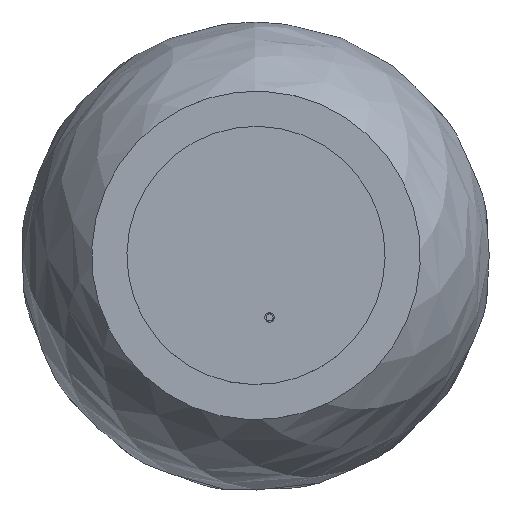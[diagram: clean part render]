
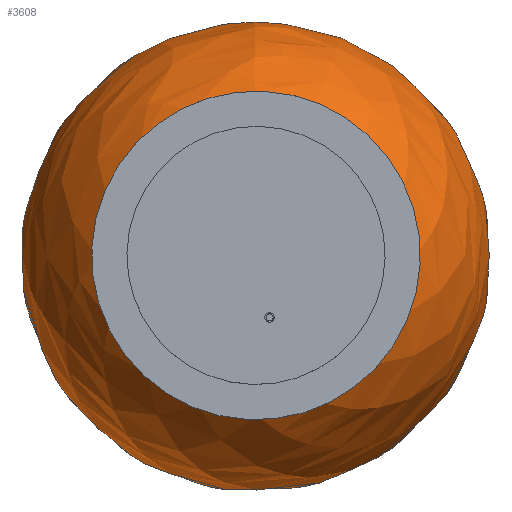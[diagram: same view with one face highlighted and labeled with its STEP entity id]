
A CAD part, top view. The second image highlights one B-rep face of the part: STEP entity #3608.
In plain terms, the highlighted free-form (B-spline) face has degree [2, 2] with [5, 9] control points.
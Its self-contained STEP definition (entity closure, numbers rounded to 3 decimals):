
#23=(
BOUNDED_SURFACE()
B_SPLINE_SURFACE(2,2,((#5984,#5985,#5986,#5987,#5988,#5989,#5990,#5991,
#5992),(#5993,#5994,#5995,#5996,#5997,#5998,#5999,#6000,#6001),(#6002,#6003,
#6004,#6005,#6006,#6007,#6008,#6009,#6010),(#6011,#6012,#6013,#6014,#6015,
#6016,#6017,#6018,#6019),(#6020,#6021,#6022,#6023,#6024,#6025,#6026,#6027,
#6028)),.UNSPECIFIED.,.F.,.T.,.F.)
B_SPLINE_SURFACE_WITH_KNOTS((3,2,3),(3,2,2,2,3),(-1.156,0.208,
1.572),(-3.142,-1.571,0.,1.571,
3.142),.UNSPECIFIED.)
GEOMETRIC_REPRESENTATION_ITEM()
RATIONAL_B_SPLINE_SURFACE(((1.,0.707,1.,0.707,1.,
0.707,1.,0.707,1.),(0.776,0.549,
0.776,0.549,0.776,0.549,
0.776,0.549,0.776),(1.,0.707,
1.,0.707,1.,0.707,1.,0.707,1.),(0.776,
0.549,0.776,0.549,0.776,
0.549,0.776,0.549,0.776),
(1.,0.707,1.,0.707,1.,0.707,1.,0.707,
1.)))
REPRESENTATION_ITEM('')
SURFACE()
);
#885=FACE_OUTER_BOUND('',#1129,.T.);
#1129=EDGE_LOOP('',(#2818,#2819,#2820));
#1336=CIRCLE('',#3974,40.391);
#1338=CIRCLE('',#3976,100.);
#1609=VERTEX_POINT('',#5981);
#1610=VERTEX_POINT('',#6029);
#2035=EDGE_CURVE('',#1609,#1609,#1336,.T.);
#2037=EDGE_CURVE('',#1610,#1609,#1338,.T.);
#2818=ORIENTED_EDGE('',*,*,#2037,.T.);
#2819=ORIENTED_EDGE('',*,*,#2035,.T.);
#2820=ORIENTED_EDGE('',*,*,#2037,.F.);
#3608=ADVANCED_FACE('',(#885),#23,.F.);
#3974=AXIS2_PLACEMENT_3D('',#5982,#4754,#4755);
#3976=AXIS2_PLACEMENT_3D('',#6030,#4758,#4759);
#4754=DIRECTION('center_axis',(0.,0.,
-1.));
#4755=DIRECTION('ref_axis',(-0.931,0.365,0.));
#4758=DIRECTION('center_axis',(0.931,-0.365,0.));
#4759=DIRECTION('ref_axis',(0.365,0.931,0.));
#5981=CARTESIAN_POINT('',(14.727,37.611,191.528));
#5982=CARTESIAN_POINT('Origin',(0.,0.,
191.528));
#5984=CARTESIAN_POINT('Ctrl Pts',(14.727,37.611,191.528));
#5985=CARTESIAN_POINT('Ctrl Pts',(52.338,22.884,191.528));
#5986=CARTESIAN_POINT('Ctrl Pts',(37.611,-14.727,191.528));
#5987=CARTESIAN_POINT('Ctrl Pts',(22.884,-52.338,191.528));
#5988=CARTESIAN_POINT('Ctrl Pts',(-14.727,-37.611,191.528));
#5989=CARTESIAN_POINT('Ctrl Pts',(-52.338,-22.884,191.528));
#5990=CARTESIAN_POINT('Ctrl Pts',(-37.611,14.727,191.528));
#5991=CARTESIAN_POINT('Ctrl Pts',(-22.884,52.338,191.528));
#5992=CARTESIAN_POINT('Ctrl Pts',(14.727,37.611,191.528));
#5993=CARTESIAN_POINT('Ctrl Pts',(41.825,106.818,158.82));
#5994=CARTESIAN_POINT('Ctrl Pts',(148.643,64.993,158.82));
#5995=CARTESIAN_POINT('Ctrl Pts',(106.818,-41.825,158.82));
#5996=CARTESIAN_POINT('Ctrl Pts',(64.993,-148.643,158.82));
#5997=CARTESIAN_POINT('Ctrl Pts',(-41.825,-106.818,158.82));
#5998=CARTESIAN_POINT('Ctrl Pts',(-148.643,-64.993,158.82));
#5999=CARTESIAN_POINT('Ctrl Pts',(-106.818,41.825,158.82));
#6000=CARTESIAN_POINT('Ctrl Pts',(-64.993,148.643,158.82));
#6001=CARTESIAN_POINT('Ctrl Pts',(41.825,106.818,158.82));
#6002=CARTESIAN_POINT('Ctrl Pts',(35.716,91.215,79.365));
#6003=CARTESIAN_POINT('Ctrl Pts',(126.931,55.5,79.365));
#6004=CARTESIAN_POINT('Ctrl Pts',(91.215,-35.716,79.365));
#6005=CARTESIAN_POINT('Ctrl Pts',(55.5,-126.931,79.365));
#6006=CARTESIAN_POINT('Ctrl Pts',(-35.716,-91.215,79.365));
#6007=CARTESIAN_POINT('Ctrl Pts',(-126.931,-55.5,79.365));
#6008=CARTESIAN_POINT('Ctrl Pts',(-91.215,35.716,79.365));
#6009=CARTESIAN_POINT('Ctrl Pts',(-55.5,126.931,79.365));
#6010=CARTESIAN_POINT('Ctrl Pts',(35.716,91.215,79.365));
#6011=CARTESIAN_POINT('Ctrl Pts',(29.606,75.613,-0.09));
#6012=CARTESIAN_POINT('Ctrl Pts',(105.219,46.006,-0.09));
#6013=CARTESIAN_POINT('Ctrl Pts',(75.613,-29.606,-0.09));
#6014=CARTESIAN_POINT('Ctrl Pts',(46.006,-105.219,-0.09));
#6015=CARTESIAN_POINT('Ctrl Pts',(-29.606,-75.613,-0.09));
#6016=CARTESIAN_POINT('Ctrl Pts',(-105.219,-46.006,-0.09));
#6017=CARTESIAN_POINT('Ctrl Pts',(-75.613,29.606,-0.09));
#6018=CARTESIAN_POINT('Ctrl Pts',(-46.006,105.219,-0.09));
#6019=CARTESIAN_POINT('Ctrl Pts',(29.606,75.613,-0.09));
#6020=CARTESIAN_POINT('Ctrl Pts',(0.,0.,
0.));
#6021=CARTESIAN_POINT('Ctrl Pts',(0.,0.,
0.));
#6022=CARTESIAN_POINT('Ctrl Pts',(0.,0.,
0.));
#6023=CARTESIAN_POINT('Ctrl Pts',(0.,0.,
0.));
#6024=CARTESIAN_POINT('Ctrl Pts',(0.,0.,
0.));
#6025=CARTESIAN_POINT('Ctrl Pts',(0.,0.,
0.));
#6026=CARTESIAN_POINT('Ctrl Pts',(0.,0.,
0.));
#6027=CARTESIAN_POINT('Ctrl Pts',(0.,0.,
0.));
#6028=CARTESIAN_POINT('Ctrl Pts',(0.,0.,
0.));
#6029=CARTESIAN_POINT('',(0.,0.,0.));
#6030=CARTESIAN_POINT('Origin',(0.04,0.103,100.));
